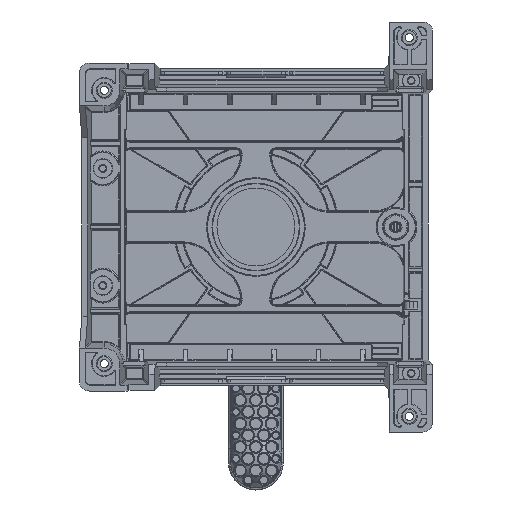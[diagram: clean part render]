
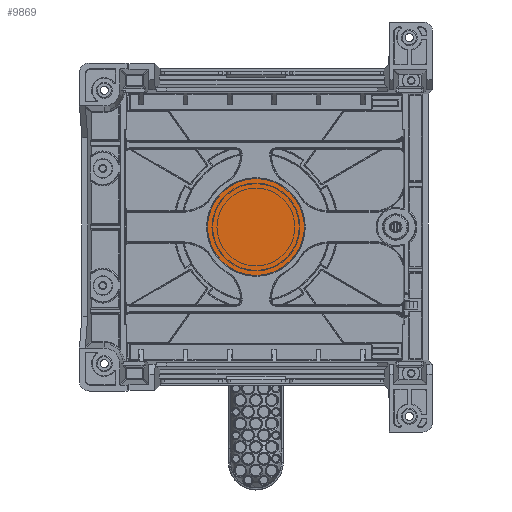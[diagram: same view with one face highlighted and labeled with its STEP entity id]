
A CAD part, front view. The second image highlights one B-rep face of the part: STEP entity #9869.
In plain terms, the highlighted planar face has unit normal (0, -1, 0).
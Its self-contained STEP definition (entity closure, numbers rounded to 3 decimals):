
#6380=PLANE('',#81901);
#9869=ADVANCED_FACE('',(#15566),#6380,.F.);
#15566=FACE_OUTER_BOUND('',#20152,.T.);
#20152=EDGE_LOOP('',(#40519));
#26114=CIRCLE('',#81897,24.75);
#40519=ORIENTED_EDGE('',*,*,#62932,.T.);
#53773=VERTEX_POINT('',#158807);
#62932=EDGE_CURVE('',#53773,#53773,#26114,.T.);
#81897=AXIS2_PLACEMENT_3D('',#158806,#97024,#97025);
#81901=AXIS2_PLACEMENT_3D('',#158812,#97032,#97033);
#97024=DIRECTION('',(0.,-1.,0.));
#97025=DIRECTION('',(1.,0.,0.));
#97032=DIRECTION('',(0.,1.,0.));
#97033=DIRECTION('',(-1.,0.,0.));
#158806=CARTESIAN_POINT('',(0.,0.,
0.));
#158807=CARTESIAN_POINT('',(24.75,0.,0.));
#158812=CARTESIAN_POINT('',(0.,0.,0.));
